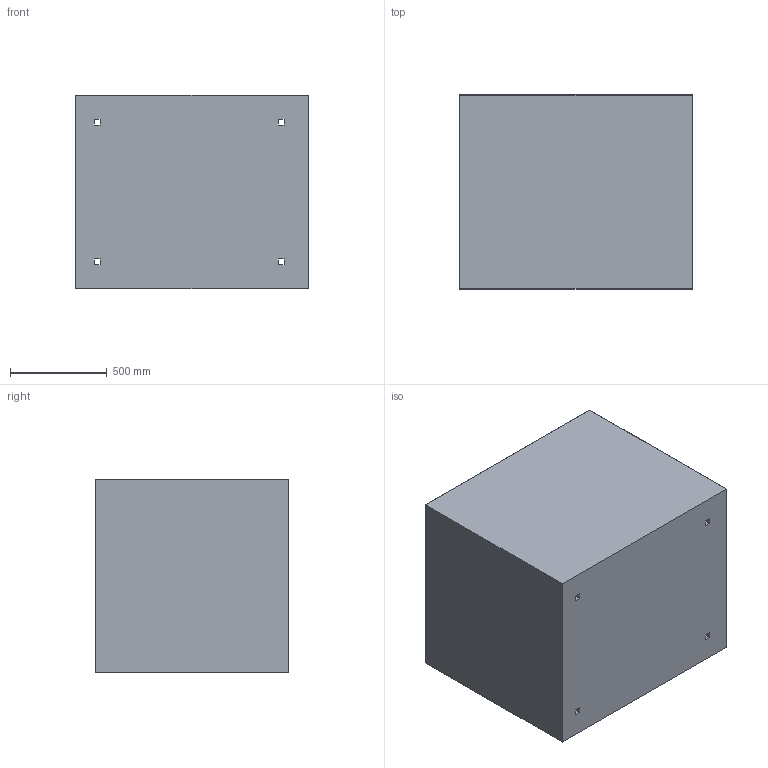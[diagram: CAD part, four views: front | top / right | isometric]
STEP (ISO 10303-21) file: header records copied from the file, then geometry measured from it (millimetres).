
FILE_DESCRIPTION(/* description */ (''),/* implementation_level */ '2;1');
FILE_NAME(/* name */ 'C:\Mac\Home\Desktop\btnv\inventor\grande120100100\donica betonowa Grande 120x100x100cm.stp',/* time_stamp */ '2025-11-10T22:42:15+01:00',/* author */ ('dwasik'),/* organization */ (''),/* preprocessor_version */ 'ST-DEVELOPER v15.6',/* originating_system */ 'Autodesk Inventor 2015',/* authorisation */ '');
FILE_SCHEMA (('AUTOMOTIVE_DESIGN { 1 0 10303 214 3 1 1 }'));
Length unit declared in the file: millimetre
Products named in the file (1): Part1
Bounding box: 1200 x 1000 x 1000 mm (x, y, z)
Volume: 306504372.8 mm3; surface area: 10522428.2 mm2
Topology: 5 solids, 5 shells, 51 faces, 108 edges, 68 vertices
Faces by surface type: plane 35, cylinder 12, sphere 4
Full cylindrical faces by diameter (mm): 25 x4
Entity records: 1366 total; most frequent: DIRECTION 232, CARTESIAN_POINT 224, ORIENTED_EDGE 208, EDGE_CURVE 104, LINE 80, VECTOR 80, AXIS2_PLACEMENT_3D 76, VERTEX_POINT 68
